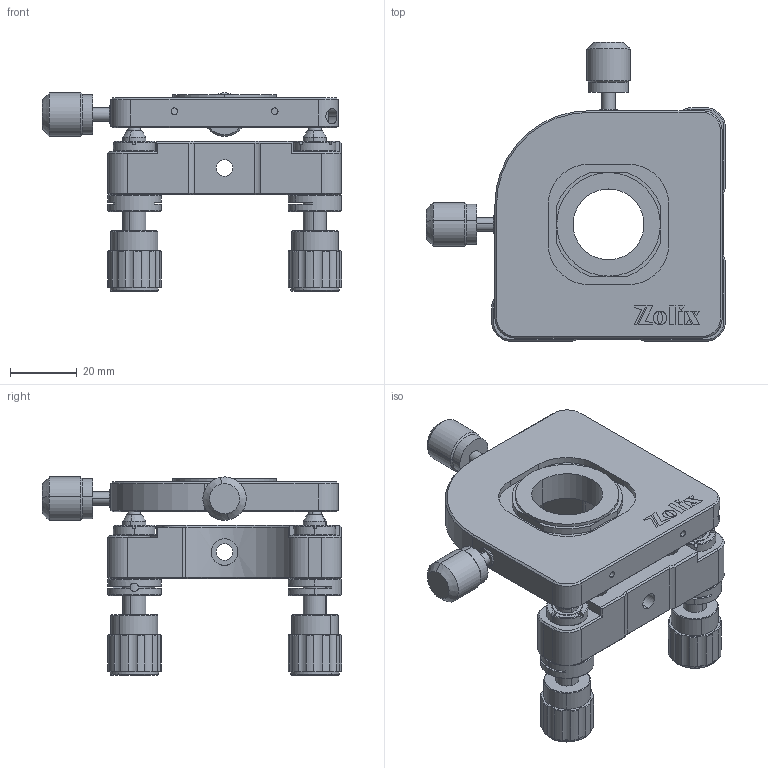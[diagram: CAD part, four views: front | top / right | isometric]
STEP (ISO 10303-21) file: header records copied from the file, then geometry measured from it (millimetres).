
FILE_DESCRIPTION (( 'STEP AP203' ), '1' );
FILE_NAME ('OM6A-LBE22.step', '2019-05-09T09:01:27', ( '' ), ( '' ), 'SwSTEP 2.0', 'SolidWorks 2016', '' );
FILE_SCHEMA (( 'CONFIG_CONTROL_DESIGN' ));
Length unit declared in the file: millimetre
Products named in the file (1): OM6A-LBE22
Bounding box: 89.48 x 89.48 x 59.3 mm (x, y, z)
Surface area: 36378.4 mm2 (no closed solid volume)
Topology: 0 solids, 48 shells, 641 faces, 2173 edges, 1556 vertices
Faces by surface type: cylinder 229, plane 225, cone 181, sphere 6
Entity records: 24594 total; most frequent: CARTESIAN_POINT 5596, DIRECTION 4074, ORIENTED_EDGE 3584, EDGE_CURVE 2161, VERTEX_POINT 1550, AXIS2_PLACEMENT_3D 1476, VECTOR 1122, LINE 1122
